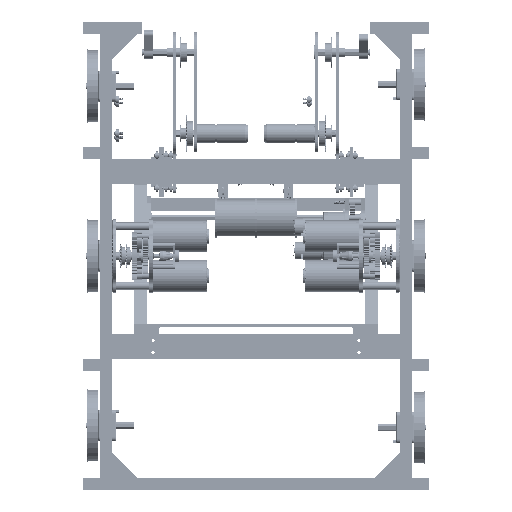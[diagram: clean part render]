
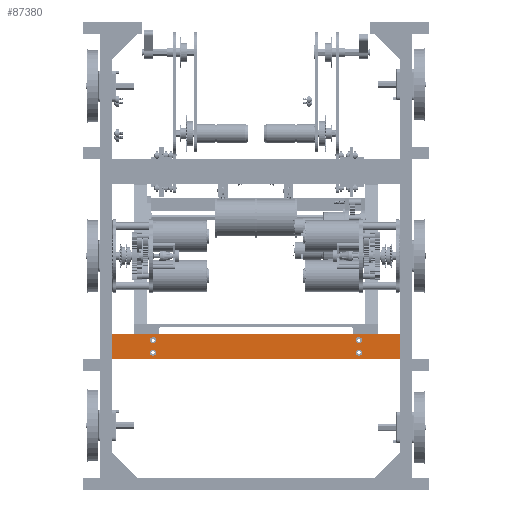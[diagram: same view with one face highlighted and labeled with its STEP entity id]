
A CAD part, front view. The second image highlights one B-rep face of the part: STEP entity #87380.
In plain terms, the highlighted planar face has unit normal (0, -1, 0) as drawn and (-1, 0, 0) by its records, which use the part's own axes.
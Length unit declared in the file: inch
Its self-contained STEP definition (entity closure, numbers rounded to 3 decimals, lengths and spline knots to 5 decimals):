
#87040 = EDGE_CURVE ( 'NONE', #87041, #87042, #148541, .T. ) ;
#87041 = VERTEX_POINT ( 'NONE', #148534 ) ;
#87042 = VERTEX_POINT ( 'NONE', #148531 ) ;
#87118 = EDGE_CURVE ( 'NONE', #87216, #87218, #148690, .T. ) ;
#87121 = EDGE_CURVE ( 'NONE', #87123, #87126, #148679, .T. ) ;
#87123 = VERTEX_POINT ( 'NONE', #148669 ) ;
#87126 = VERTEX_POINT ( 'NONE', #148667 ) ;
#87207 = EDGE_CURVE ( 'NONE', #87208, #87210, #148904, .T. ) ;
#87208 = VERTEX_POINT ( 'NONE', #148898 ) ;
#87210 = VERTEX_POINT ( 'NONE', #148896 ) ;
#87216 = VERTEX_POINT ( 'NONE', #148891 ) ;
#87218 = VERTEX_POINT ( 'NONE', #148889 ) ;
#87305 = EDGE_CURVE ( 'NONE', #87306, #87307, #149113, .T. ) ;
#87306 = VERTEX_POINT ( 'NONE', #149107 ) ;
#87307 = VERTEX_POINT ( 'NONE', #149105 ) ;
#87333 = ORIENTED_EDGE ( 'NONE', *, *, #87335, .T. ) ;
#87335 = EDGE_CURVE ( 'NONE', #87042, #87041, #149170, .T. ) ;
#87337 = ORIENTED_EDGE ( 'NONE', *, *, #87040, .T. ) ;
#87341 = EDGE_LOOP ( 'NONE', ( #87342, #87344 ) ) ;
#87342 = ORIENTED_EDGE ( 'NONE', *, *, #87343, .T. ) ;
#87343 = EDGE_CURVE ( 'NONE', #87126, #87123, #149308, .T. ) ;
#87344 = ORIENTED_EDGE ( 'NONE', *, *, #87121, .T. ) ;
#87346 = EDGE_LOOP ( 'NONE', ( #87348, #87353 ) ) ;
#87348 = ORIENTED_EDGE ( 'NONE', *, *, #87351, .T. ) ;
#87351 = EDGE_CURVE ( 'NONE', #87218, #87216, #149293, .T. ) ;
#87353 = ORIENTED_EDGE ( 'NONE', *, *, #87118, .T. ) ;
#87354 = EDGE_LOOP ( 'NONE', ( #87452, #87456 ) ) ;
#87380 = ADVANCED_FACE ( 'NONE', ( #149387, #149386, #149384, #149382, #149380 ), #149376, .F. ) ;
#87381 = EDGE_LOOP ( 'NONE', ( #87333, #87337 ) ) ;
#87391 = EDGE_CURVE ( 'NONE', #87394, #87395, #149337, .T. ) ;
#87394 = VERTEX_POINT ( 'NONE', #149330 ) ;
#87395 = VERTEX_POINT ( 'NONE', #149327 ) ;
#87452 = ORIENTED_EDGE ( 'NONE', *, *, #87454, .T. ) ;
#87454 = EDGE_CURVE ( 'NONE', #87210, #87208, #149518, .T. ) ;
#87456 = ORIENTED_EDGE ( 'NONE', *, *, #87207, .T. ) ;
#87459 = EDGE_LOOP ( 'NONE', ( #87460, #87461, #87464, #87466 ) ) ;
#87460 = ORIENTED_EDGE ( 'NONE', *, *, #87391, .T. ) ;
#87461 = ORIENTED_EDGE ( 'NONE', *, *, #87462, .F. ) ;
#87462 = EDGE_CURVE ( 'NONE', #87307, #87395, #149506, .T. ) ;
#87464 = ORIENTED_EDGE ( 'NONE', *, *, #87305, .F. ) ;
#87466 = ORIENTED_EDGE ( 'NONE', *, *, #87468, .T. ) ;
#87468 = EDGE_CURVE ( 'NONE', #87306, #87394, #149496, .T. ) ;
#148531 = CARTESIAN_POINT ( 'NONE',  ( 0., 1.5, 3. ) ) ;
#148534 = CARTESIAN_POINT ( 'NONE',  ( 0., 1.5, 3.5 ) ) ;
#148536 = DIRECTION ( 'NONE',  ( 0., 0., -1. ) ) ;
#148538 = DIRECTION ( 'NONE',  ( 1., 0., 0. ) ) ;
#148540 = AXIS2_PLACEMENT_3D ( 'NONE', #148552, #148538, #148536 ) ;
#148541 = CIRCLE ( 'NONE', #148540, 0.25 ) ;
#148552 = CARTESIAN_POINT ( 'NONE',  ( 0., 1.5, 3.25 ) ) ;
#148667 = CARTESIAN_POINT ( 'NONE',  ( 0., 0.5, 3. ) ) ;
#148669 = CARTESIAN_POINT ( 'NONE',  ( 0., 0.5, 3.5 ) ) ;
#148671 = DIRECTION ( 'NONE',  ( 0., 0., -1. ) ) ;
#148673 = DIRECTION ( 'NONE',  ( 1., 0., 0. ) ) ;
#148675 = CARTESIAN_POINT ( 'NONE',  ( 0., 0.5, 3.25 ) ) ;
#148677 = AXIS2_PLACEMENT_3D ( 'NONE', #148675, #148673, #148671 ) ;
#148679 = CIRCLE ( 'NONE', #148677, 0.25 ) ;
#148684 = DIRECTION ( 'NONE',  ( 0., 0., -1. ) ) ;
#148686 = DIRECTION ( 'NONE',  ( 1., 0., 0. ) ) ;
#148688 = AXIS2_PLACEMENT_3D ( 'NONE', #148704, #148686, #148684 ) ;
#148690 = CIRCLE ( 'NONE', #148688, 0.25 ) ;
#148704 = CARTESIAN_POINT ( 'NONE',  ( 0., 1.5, 19.75 ) ) ;
#148889 = CARTESIAN_POINT ( 'NONE',  ( 0., 1.5, 19.5 ) ) ;
#148891 = CARTESIAN_POINT ( 'NONE',  ( 0., 1.5, 20. ) ) ;
#148896 = CARTESIAN_POINT ( 'NONE',  ( 0., 0.5, 19.5 ) ) ;
#148898 = CARTESIAN_POINT ( 'NONE',  ( 0., 0.5, 20. ) ) ;
#148899 = DIRECTION ( 'NONE',  ( 0., 0., -1. ) ) ;
#148901 = DIRECTION ( 'NONE',  ( 1., 0., 0. ) ) ;
#148902 = AXIS2_PLACEMENT_3D ( 'NONE', #148916, #148901, #148899 ) ;
#148904 = CIRCLE ( 'NONE', #148902, 0.25 ) ;
#148916 = CARTESIAN_POINT ( 'NONE',  ( 0., 0.5, 19.75 ) ) ;
#149105 = CARTESIAN_POINT ( 'NONE',  ( 0., 0., 23. ) ) ;
#149107 = CARTESIAN_POINT ( 'NONE',  ( 0., 2., 23. ) ) ;
#149109 = DIRECTION ( 'NONE',  ( 0., -1., 0. ) ) ;
#149110 = VECTOR ( 'NONE', #149109, 39.37008 ) ;
#149111 = CARTESIAN_POINT ( 'NONE',  ( 0., 0., 23. ) ) ;
#149113 = LINE ( 'NONE', #149111, #149110 ) ;
#149164 = DIRECTION ( 'NONE',  ( 0., 0., -1. ) ) ;
#149166 = DIRECTION ( 'NONE',  ( 1., 0., 0. ) ) ;
#149167 = CARTESIAN_POINT ( 'NONE',  ( 0., 1.5, 3.25 ) ) ;
#149169 = AXIS2_PLACEMENT_3D ( 'NONE', #149167, #149166, #149164 ) ;
#149170 = CIRCLE ( 'NONE', #149169, 0.25 ) ;
#149286 = DIRECTION ( 'NONE',  ( 0., 0., -1. ) ) ;
#149288 = DIRECTION ( 'NONE',  ( 1., 0., 0. ) ) ;
#149290 = CARTESIAN_POINT ( 'NONE',  ( 0., 1.5, 19.75 ) ) ;
#149292 = AXIS2_PLACEMENT_3D ( 'NONE', #149290, #149288, #149286 ) ;
#149293 = CIRCLE ( 'NONE', #149292, 0.25 ) ;
#149301 = DIRECTION ( 'NONE',  ( 0., 0., -1. ) ) ;
#149303 = DIRECTION ( 'NONE',  ( 1., 0., 0. ) ) ;
#149305 = CARTESIAN_POINT ( 'NONE',  ( 0., 0.5, 3.25 ) ) ;
#149306 = AXIS2_PLACEMENT_3D ( 'NONE', #149305, #149303, #149301 ) ;
#149308 = CIRCLE ( 'NONE', #149306, 0.25 ) ;
#149327 = CARTESIAN_POINT ( 'NONE',  ( 0., 0., 0. ) ) ;
#149330 = CARTESIAN_POINT ( 'NONE',  ( 0., 2., 0. ) ) ;
#149332 = DIRECTION ( 'NONE',  ( 0., -1., 0. ) ) ;
#149334 = VECTOR ( 'NONE', #149332, 39.37008 ) ;
#149336 = CARTESIAN_POINT ( 'NONE',  ( 0., 0., 0. ) ) ;
#149337 = LINE ( 'NONE', #149336, #149334 ) ;
#149368 = DIRECTION ( 'NONE',  ( 0., 0., -1. ) ) ;
#149370 = DIRECTION ( 'NONE',  ( 1., 0., 0. ) ) ;
#149372 = CARTESIAN_POINT ( 'NONE',  ( 0., 0., 23. ) ) ;
#149374 = AXIS2_PLACEMENT_3D ( 'NONE', #149372, #149370, #149368 ) ;
#149376 = PLANE ( 'NONE',  #149374 ) ;
#149380 = FACE_OUTER_BOUND ( 'NONE', #87459, .T. ) ;
#149382 = FACE_BOUND ( 'NONE', #87354, .T. ) ;
#149384 = FACE_BOUND ( 'NONE', #87346, .T. ) ;
#149386 = FACE_BOUND ( 'NONE', #87341, .T. ) ;
#149387 = FACE_BOUND ( 'NONE', #87381, .T. ) ;
#149491 = DIRECTION ( 'NONE',  ( 0., 0., -1. ) ) ;
#149492 = VECTOR ( 'NONE', #149491, 39.37008 ) ;
#149495 = CARTESIAN_POINT ( 'NONE',  ( 0., 2., 23. ) ) ;
#149496 = LINE ( 'NONE', #149495, #149492 ) ;
#149501 = DIRECTION ( 'NONE',  ( 0., 0., -1. ) ) ;
#149502 = VECTOR ( 'NONE', #149501, 39.37008 ) ;
#149504 = CARTESIAN_POINT ( 'NONE',  ( 0., 0., 23. ) ) ;
#149506 = LINE ( 'NONE', #149504, #149502 ) ;
#149511 = DIRECTION ( 'NONE',  ( 0., 0., -1. ) ) ;
#149513 = DIRECTION ( 'NONE',  ( 1., 0., 0. ) ) ;
#149515 = CARTESIAN_POINT ( 'NONE',  ( 0., 0.5, 19.75 ) ) ;
#149516 = AXIS2_PLACEMENT_3D ( 'NONE', #149515, #149513, #149511 ) ;
#149518 = CIRCLE ( 'NONE', #149516, 0.25 ) ;
